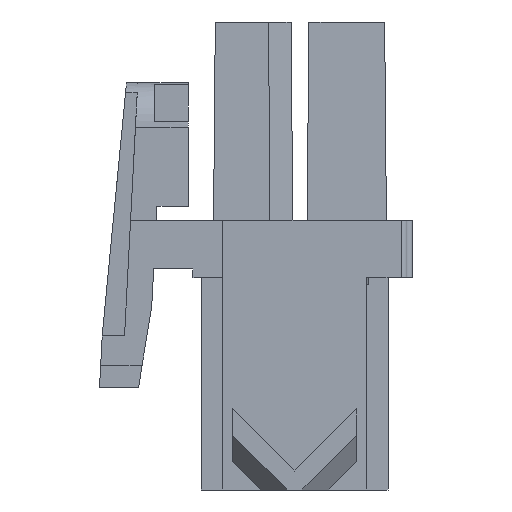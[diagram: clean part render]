
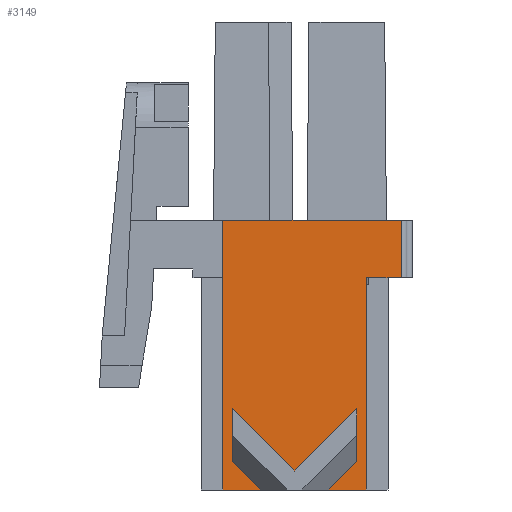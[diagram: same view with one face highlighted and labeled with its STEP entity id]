
A CAD part, left-side view. The second image highlights one B-rep face of the part: STEP entity #3149.
In plain terms, the highlighted planar face has unit normal (-1, 0, 0).
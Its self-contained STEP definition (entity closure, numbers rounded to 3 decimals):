
#158=DIRECTION('',(0.,-1.,0.));
#159=VECTOR('',#158,8.014);
#160=CARTESIAN_POINT('',(-4.8,1.499,1.65));
#161=LINE('',#160,#159);
#450=DIRECTION('',(0.,0.,-1.));
#451=VECTOR('',#450,2.572);
#452=CARTESIAN_POINT('',(-4.8,1.499,1.65));
#453=LINE('',#452,#451);
#454=DIRECTION('',(0.,-1.,0.));
#455=VECTOR('',#454,1.708);
#456=CARTESIAN_POINT('',(-4.8,-3.241,-10.45));
#457=LINE('',#456,#455);
#458=DIRECTION('',(0.,0.707,-0.707));
#459=VECTOR('',#458,1.794);
#460=CARTESIAN_POINT('',(-4.8,-4.51,-9.181));
#461=LINE('',#460,#459);
#462=DIRECTION('',(0.,-0.707,0.707));
#463=VECTOR('',#462,3.939);
#464=CARTESIAN_POINT('',(-4.8,-1.725,-9.597));
#465=LINE('',#464,#463);
#466=DIRECTION('',(0.,-0.707,-0.707));
#467=VECTOR('',#466,3.939);
#468=CARTESIAN_POINT('',(-4.8,1.06,-6.812));
#469=LINE('',#468,#467);
#470=DIRECTION('',(0.,0.,1.));
#471=VECTOR('',#470,2.369);
#472=CARTESIAN_POINT('',(-4.8,1.06,-9.181));
#473=LINE('',#472,#471);
#474=DIRECTION('',(0.,0.707,0.707));
#475=VECTOR('',#474,1.794);
#476=CARTESIAN_POINT('',(-4.8,-0.209,-10.45));
#477=LINE('',#476,#475);
#478=DIRECTION('',(0.,-1.,0.));
#479=VECTOR('',#478,1.708);
#480=CARTESIAN_POINT('',(-4.8,1.499,-10.45));
#481=LINE('',#480,#479);
#482=DIRECTION('',(0.,0.,-1.));
#483=VECTOR('',#482,9.528);
#484=CARTESIAN_POINT('',(-4.8,1.499,-0.922));
#485=LINE('',#484,#483);
#1028=DIRECTION('',(0.,0.,-1.));
#1029=VECTOR('',#1028,2.572);
#1030=CARTESIAN_POINT('',(-4.8,-6.515,1.65));
#1031=LINE('',#1030,#1029);
#1324=DIRECTION('',(0.,1.,0.));
#1325=VECTOR('',#1324,1.566);
#1326=CARTESIAN_POINT('',(-4.8,-6.515,-0.922));
#1327=LINE('',#1326,#1325);
#1529=DIRECTION('',(0.,0.,-1.));
#1530=VECTOR('',#1529,9.528);
#1531=CARTESIAN_POINT('',(-4.8,-4.949,-0.922));
#1532=LINE('',#1531,#1530);
#1645=DIRECTION('',(0.,0.,1.));
#1646=VECTOR('',#1645,2.369);
#1647=CARTESIAN_POINT('',(-4.8,-4.51,-9.181));
#1648=LINE('',#1647,#1646);
#2155=CARTESIAN_POINT('',(-4.8,1.499,1.65));
#2156=VERTEX_POINT('',#2155);
#2157=CARTESIAN_POINT('',(-4.8,-6.515,1.65));
#2158=VERTEX_POINT('',#2157);
#2261=CARTESIAN_POINT('',(-4.8,-4.949,-10.45));
#2262=VERTEX_POINT('',#2261);
#2263=CARTESIAN_POINT('',(-4.8,-3.241,-10.45));
#2264=VERTEX_POINT('',#2263);
#2269=CARTESIAN_POINT('',(-4.8,-0.209,-10.45));
#2270=VERTEX_POINT('',#2269);
#2271=CARTESIAN_POINT('',(-4.8,1.499,-10.45));
#2272=VERTEX_POINT('',#2271);
#2291=CARTESIAN_POINT('',(-4.8,1.499,-0.922));
#2292=VERTEX_POINT('',#2291);
#2299=CARTESIAN_POINT('',(-4.8,1.06,-9.181));
#2300=VERTEX_POINT('',#2299);
#2303=CARTESIAN_POINT('',(-4.8,-4.51,-9.181));
#2304=CARTESIAN_POINT('',(-4.8,-4.51,-6.812));
#2305=VERTEX_POINT('',#2303);
#2306=VERTEX_POINT('',#2304);
#2315=CARTESIAN_POINT('',(-4.8,-1.725,-9.597));
#2316=VERTEX_POINT('',#2315);
#2317=CARTESIAN_POINT('',(-4.8,1.06,-6.812));
#2318=VERTEX_POINT('',#2317);
#2319=CARTESIAN_POINT('',(-4.8,-4.949,-0.922));
#2320=VERTEX_POINT('',#2319);
#2321=CARTESIAN_POINT('',(-4.8,-6.515,-0.922));
#2322=VERTEX_POINT('',#2321);
#3116=CARTESIAN_POINT('',(-4.8,1.249,-1.654));
#3117=DIRECTION('',(-1.,0.,0.));
#3118=DIRECTION('',(0.,0.,1.));
#3119=AXIS2_PLACEMENT_3D('',#3116,#3117,#3118);
#3120=PLANE('',#3119);
#3122=ORIENTED_EDGE('',*,*,#3121,.F.);
#3123=ORIENTED_EDGE('',*,*,#2633,.T.);
#3125=ORIENTED_EDGE('',*,*,#3124,.T.);
#3127=ORIENTED_EDGE('',*,*,#3126,.T.);
#3129=ORIENTED_EDGE('',*,*,#3128,.T.);
#3131=ORIENTED_EDGE('',*,*,#3130,.F.);
#3133=ORIENTED_EDGE('',*,*,#3132,.F.);
#3135=ORIENTED_EDGE('',*,*,#3134,.T.);
#3137=ORIENTED_EDGE('',*,*,#3136,.F.);
#3139=ORIENTED_EDGE('',*,*,#3138,.F.);
#3141=ORIENTED_EDGE('',*,*,#3140,.F.);
#3143=ORIENTED_EDGE('',*,*,#3142,.F.);
#3145=ORIENTED_EDGE('',*,*,#3144,.F.);
#3146=ORIENTED_EDGE('',*,*,#3105,.F.);
#3147=EDGE_LOOP('',(#3122,#3123,#3125,#3127,#3129,#3131,#3133,#3135,#3137,#3139,
#3141,#3143,#3145,#3146));
#3148=FACE_OUTER_BOUND('',#3147,.F.);
#3149=ADVANCED_FACE('',(#3148),#3120,.T.);
#2633=EDGE_CURVE('',#2156,#2158,#161,.T.);
#3105=EDGE_CURVE('',#2292,#2272,#485,.T.);
#3121=EDGE_CURVE('',#2156,#2292,#453,.T.);
#3124=EDGE_CURVE('',#2158,#2322,#1031,.T.);
#3126=EDGE_CURVE('',#2322,#2320,#1327,.T.);
#3128=EDGE_CURVE('',#2320,#2262,#1532,.T.);
#3130=EDGE_CURVE('',#2264,#2262,#457,.T.);
#3132=EDGE_CURVE('',#2305,#2264,#461,.T.);
#3134=EDGE_CURVE('',#2305,#2306,#1648,.T.);
#3136=EDGE_CURVE('',#2316,#2306,#465,.T.);
#3138=EDGE_CURVE('',#2318,#2316,#469,.T.);
#3140=EDGE_CURVE('',#2300,#2318,#473,.T.);
#3142=EDGE_CURVE('',#2270,#2300,#477,.T.);
#3144=EDGE_CURVE('',#2272,#2270,#481,.T.);
